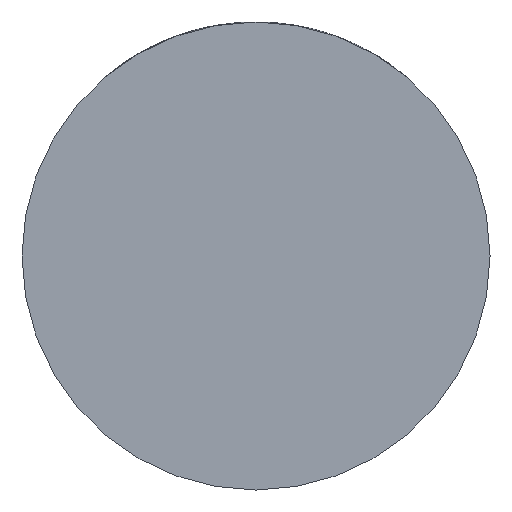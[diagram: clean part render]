
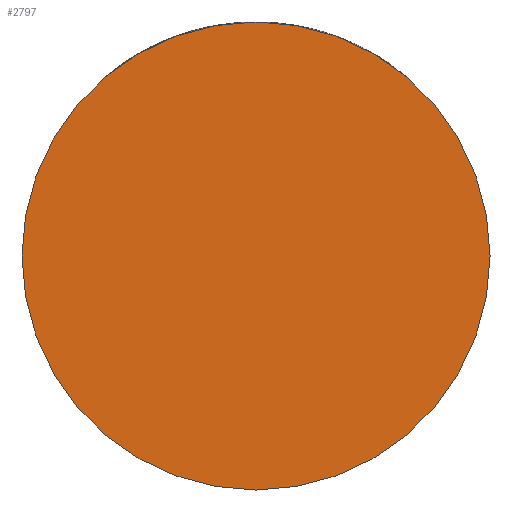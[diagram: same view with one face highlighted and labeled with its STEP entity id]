
A CAD part, front view. The second image highlights one B-rep face of the part: STEP entity #2797.
In plain terms, the highlighted planar face has unit normal (0, -1, 0).
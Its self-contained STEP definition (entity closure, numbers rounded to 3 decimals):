
#48 = CARTESIAN_POINT ( 'NONE',  ( -39., -36., 0. ) ) ;
#217 = CIRCLE ( 'NONE', #2999, 39. ) ;
#269 = CARTESIAN_POINT ( 'NONE',  ( 0., -36., 0. ) ) ;
#294 = AXIS2_PLACEMENT_3D ( 'NONE', #516, #1241, #3404 ) ;
#302 = EDGE_LOOP ( 'NONE', ( #4475, #2069 ) ) ;
#516 = CARTESIAN_POINT ( 'NONE',  ( 0., -36., 0. ) ) ;
#637 = DIRECTION ( 'NONE',  ( 1., 0., 0. ) ) ;
#659 = DIRECTION ( 'NONE',  ( 0., -1., 0. ) ) ;
#920 = VERTEX_POINT ( 'NONE', #2134 ) ;
#957 = DIRECTION ( 'NONE',  ( 0., -1., 0. ) ) ;
#979 = CARTESIAN_POINT ( 'NONE',  ( 0., -36., 0. ) ) ;
#1064 = EDGE_CURVE ( 'NONE', #920, #3763, #217, .T. ) ;
#1241 = DIRECTION ( 'NONE',  ( 0., -1., 0. ) ) ;
#2046 = AXIS2_PLACEMENT_3D ( 'NONE', #269, #659, #637 ) ;
#2069 = ORIENTED_EDGE ( 'NONE', *, *, #1064, .T. ) ;
#2134 = CARTESIAN_POINT ( 'NONE',  ( 39., -36., 0. ) ) ;
#2797 = ADVANCED_FACE ( 'NONE', ( #4090 ), #3700, .T. ) ;
#2997 = CIRCLE ( 'NONE', #2046, 39. ) ;
#2999 = AXIS2_PLACEMENT_3D ( 'NONE', #979, #957, #3736 ) ;
#3404 = DIRECTION ( 'NONE',  ( 1., 0., 0. ) ) ;
#3700 = PLANE ( 'NONE',  #294 ) ;
#3736 = DIRECTION ( 'NONE',  ( 1., 0., 0. ) ) ;
#3763 = VERTEX_POINT ( 'NONE', #48 ) ;
#4006 = EDGE_CURVE ( 'NONE', #3763, #920, #2997, .T. ) ;
#4090 = FACE_OUTER_BOUND ( 'NONE', #302, .T. ) ;
#4475 = ORIENTED_EDGE ( 'NONE', *, *, #4006, .T. ) ;
